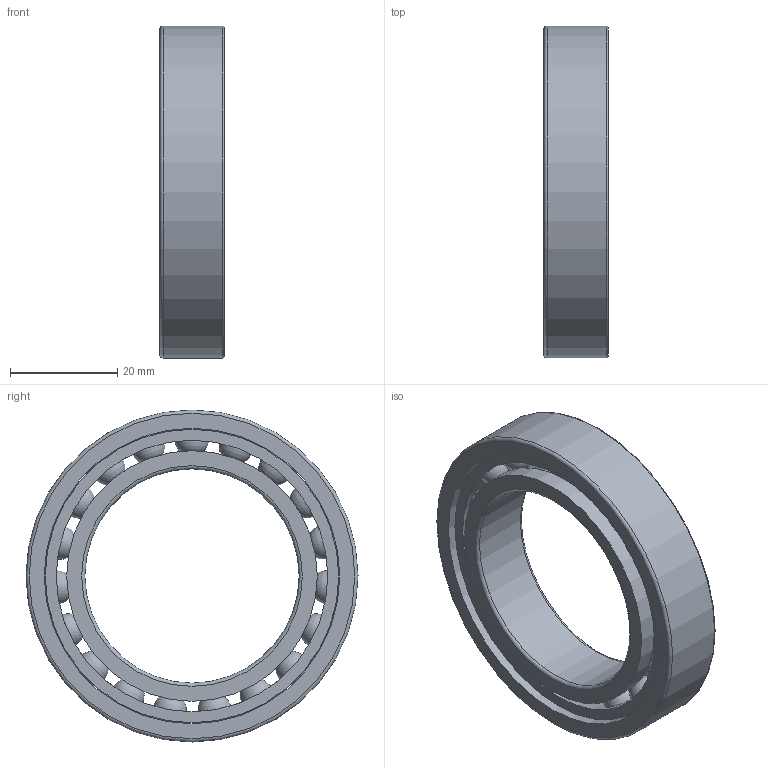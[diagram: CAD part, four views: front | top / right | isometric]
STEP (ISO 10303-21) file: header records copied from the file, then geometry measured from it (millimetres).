
FILE_DESCRIPTION(/* description */ (''),/* implementation_level */ '2;1');
FILE_NAME(/* name */ 'SM_61908_TA.step',/* time_stamp */ '2013-03-11T11:35:35+01:00',/* author */ ('Marian'),/* organization */ ('GMN'),/* preprocessor_version */ 'ST-DEVELOPER v11',/* originating_system */ 'SIEMENS UGS NX 6.0',/* authorisation */ '');
FILE_SCHEMA (('CONFIG_CONTROL_DESIGN'));
Length unit declared in the file: millimetre
Products named in the file (1): SM_61908_TA
Bounding box: 12 x 62 x 62 mm (x, y, z)
Volume: 15386.1 mm3; surface area: 15308.3 mm2
Topology: 22 solids, 22 shells, 58 faces, 148 edges, 96 vertices
Faces by surface type: cylinder 26, sphere 19, torus 6, plane 6, cone 1
Full cylindrical faces by diameter (mm): 6.55 x19, 40 x1, 46.8 x2, 50.69 x1, 54.8 x1, 55.2 x1, 62 x1
Entity records: 3424 total; most frequent: CARTESIAN_POINT 2360, DIRECTION 158, FACE_BOUND 135, EDGE_LOOP 116, ORIENTED_EDGE 116, AXIS2_PLACEMENT_3D 79, VERTEX_POINT 77, EDGE_CURVE 58
